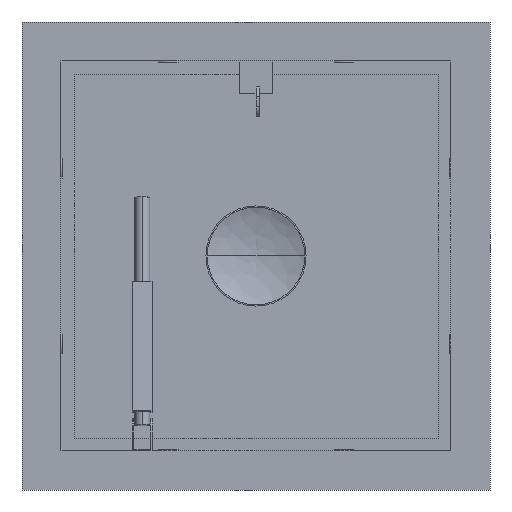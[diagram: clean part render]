
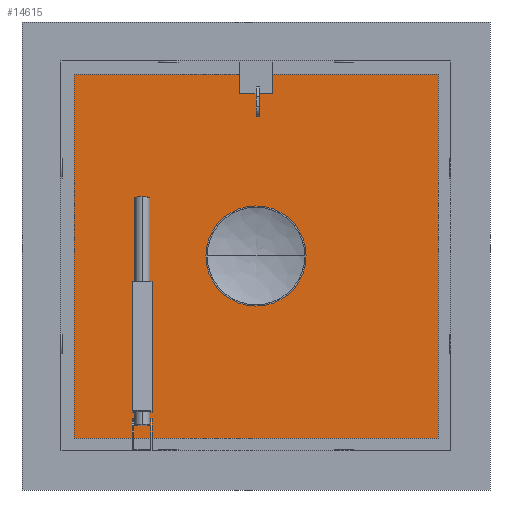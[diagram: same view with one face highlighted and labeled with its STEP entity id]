
A CAD part, front view. The second image highlights one B-rep face of the part: STEP entity #14615.
In plain terms, the highlighted planar face has unit normal (0, -1, 0).
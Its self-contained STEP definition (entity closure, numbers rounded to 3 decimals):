
#5844=DIRECTION('',(0.,0.,-1.));
#5845=VECTOR('',#5844,648.);
#5846=CARTESIAN_POINT('',(324.,74.,315.));
#5847=LINE('',#5846,#5845);
#5852=CARTESIAN_POINT('',(0.,74.,0.));
#5853=DIRECTION('',(0.,-1.,0.));
#5854=DIRECTION('',(-1.,0.,0.));
#5855=AXIS2_PLACEMENT_3D('',#5852,#5853,#5854);
#5857=CARTESIAN_POINT('',(0.,74.,0.));
#5858=DIRECTION('',(0.,-1.,0.));
#5859=DIRECTION('',(1.,0.,0.));
#5860=AXIS2_PLACEMENT_3D('',#5857,#5858,#5859);
#5862=DIRECTION('',(0.,0.,-1.));
#5863=VECTOR('',#5862,30.);
#5864=CARTESIAN_POINT('',(0.,74.,245.));
#5865=LINE('',#5864,#5863);
#5866=DIRECTION('',(1.,0.,0.));
#5867=VECTOR('',#5866,5.);
#5868=CARTESIAN_POINT('',(0.,74.,215.));
#5869=LINE('',#5868,#5867);
#5870=DIRECTION('',(0.,0.,-1.));
#5871=VECTOR('',#5870,30.);
#5872=CARTESIAN_POINT('',(5.,74.,245.));
#5873=LINE('',#5872,#5871);
#5874=DIRECTION('',(1.,0.,0.));
#5875=VECTOR('',#5874,5.);
#5876=CARTESIAN_POINT('',(0.,74.,245.));
#5877=LINE('',#5876,#5875);
#5878=DIRECTION('',(-1.,0.,0.));
#5879=VECTOR('',#5878,648.);
#5880=CARTESIAN_POINT('',(324.,74.,-333.));
#5881=LINE('',#5880,#5879);
#5886=DIRECTION('',(0.,0.,1.));
#5887=VECTOR('',#5886,648.);
#5888=CARTESIAN_POINT('',(-324.,74.,-333.));
#5889=LINE('',#5888,#5887);
#5894=DIRECTION('',(1.,0.,0.));
#5895=VECTOR('',#5894,648.);
#5896=CARTESIAN_POINT('',(-324.,74.,315.));
#5897=LINE('',#5896,#5895);
#11507=CARTESIAN_POINT('',(324.,74.,315.));
#11508=CARTESIAN_POINT('',(324.,74.,-333.));
#11509=VERTEX_POINT('',#11507);
#11510=VERTEX_POINT('',#11508);
#11511=CARTESIAN_POINT('',(-324.,74.,-333.));
#11512=VERTEX_POINT('',#11511);
#11513=CARTESIAN_POINT('',(-324.,74.,315.));
#11514=VERTEX_POINT('',#11513);
#11553=CARTESIAN_POINT('',(0.,74.,245.));
#11554=VERTEX_POINT('',#11553);
#11556=CARTESIAN_POINT('',(0.,74.,215.));
#11558=VERTEX_POINT('',#11556);
#11559=CARTESIAN_POINT('',(5.,74.,245.));
#11560=VERTEX_POINT('',#11559);
#11562=CARTESIAN_POINT('',(5.,74.,215.));
#11564=VERTEX_POINT('',#11562);
#11565=CARTESIAN_POINT('',(-77.,74.,0.));
#11566=CARTESIAN_POINT('',(77.,74.,0.));
#11567=VERTEX_POINT('',#11565);
#11568=VERTEX_POINT('',#11566);
#14585=CARTESIAN_POINT('',(0.,74.,0.));
#14586=DIRECTION('',(0.,1.,0.));
#14587=DIRECTION('',(1.,0.,0.));
#14588=AXIS2_PLACEMENT_3D('',#14585,#14586,#14587);
#14589=PLANE('',#14588);
#14590=ORIENTED_EDGE('',*,*,#14575,.T.);
#14592=ORIENTED_EDGE('',*,*,#14591,.T.);
#14594=ORIENTED_EDGE('',*,*,#14593,.T.);
#14596=ORIENTED_EDGE('',*,*,#14595,.T.);
#14597=EDGE_LOOP('',(#14590,#14592,#14594,#14596));
#14598=FACE_OUTER_BOUND('',#14597,.F.);
#14600=ORIENTED_EDGE('',*,*,#14599,.T.);
#14602=ORIENTED_EDGE('',*,*,#14601,.T.);
#14603=EDGE_LOOP('',(#14600,#14602));
#14604=FACE_BOUND('',#14603,.F.);
#14606=ORIENTED_EDGE('',*,*,#14605,.T.);
#14608=ORIENTED_EDGE('',*,*,#14607,.T.);
#14610=ORIENTED_EDGE('',*,*,#14609,.F.);
#14612=ORIENTED_EDGE('',*,*,#14611,.F.);
#14613=EDGE_LOOP('',(#14606,#14608,#14610,#14612));
#14614=FACE_BOUND('',#14613,.F.);
#5856=CIRCLE('',#5855,77.);
#5861=CIRCLE('',#5860,77.);
#14575=EDGE_CURVE('',#11509,#11510,#5847,.T.);
#14591=EDGE_CURVE('',#11510,#11512,#5881,.T.);
#14593=EDGE_CURVE('',#11512,#11514,#5889,.T.);
#14595=EDGE_CURVE('',#11514,#11509,#5897,.T.);
#14599=EDGE_CURVE('',#11567,#11568,#5856,.T.);
#14601=EDGE_CURVE('',#11568,#11567,#5861,.T.);
#14605=EDGE_CURVE('',#11554,#11558,#5865,.T.);
#14607=EDGE_CURVE('',#11558,#11564,#5869,.T.);
#14609=EDGE_CURVE('',#11560,#11564,#5873,.T.);
#14611=EDGE_CURVE('',#11554,#11560,#5877,.T.);
#14615=ADVANCED_FACE('',(#14598,#14604,#14614),#14589,.F.);
